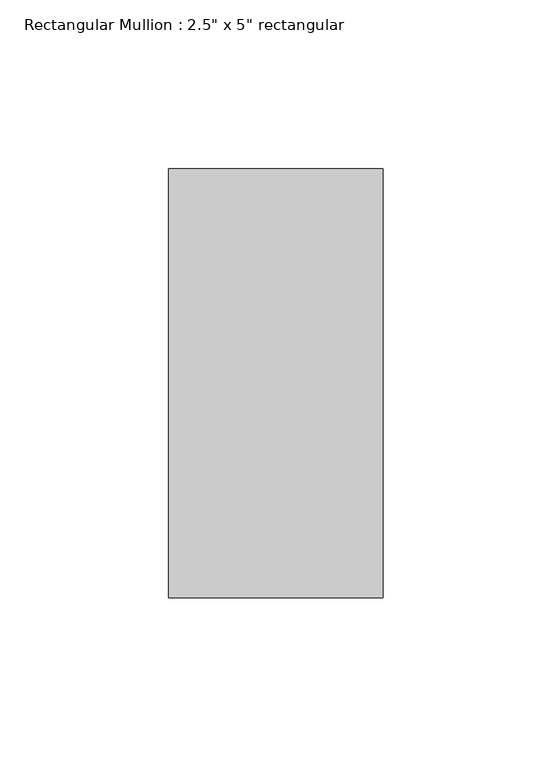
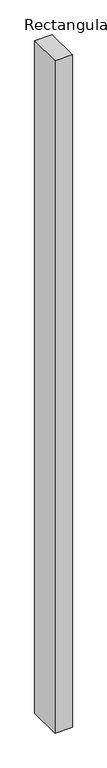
"""IFC4 building model written with IfcOpenShell, lengths in millimetres: member geometry."""

from ifc_helpers import new_model, si_unit, frame, origin, place, context, project, spatial, polyline, outline, extrude, source, transform, mapped, element, save


def member_06734e61(model_context):
    return source(origin(), model_context, "Body", "SweptSolid", [
        extrude(outline(polyline([(31.75, 63.5), (31.75, -63.5), (-31.75, -63.5), (-31.75, 63.5), (31.75, 63.5)])), frame((0.0, 0.0, -2582.2789558), z_axis=(0.0, 0.0, 1.0), x_axis=(1.0, 0.0, 0.0)), (0.0, 0.0, 1.0), 2582.2789558),
    ])


if __name__ == "__main__":
    model = new_model("IFC4")
    model_context = context("Model", 3, world=origin())
    ifc_project = project(units=[si_unit("LENGTHUNIT", "METRE", prefix="MILLI")], contexts=[model_context])
    site = spatial("IfcSite", under=ifc_project)
    building = spatial("IfcBuilding", under=site)
    placement = place(None, origin())
    member_shape = member_06734e61(model_context)
    element("IfcMember", 1, ObjectType="Rectangular Mullion : 2.5\" x 5\" rectangular", at=placement, inside=building, context=model_context, shape_type="MappedRepresentation", body=[
        mapped(member_shape, transform((0.0, 0.0, 0.0), x_axis=(1.0, 0.0, 0.0), y_axis=(0.0, 1.0, 0.0), z_axis=(0.0, 0.0, 1.0))),
    ])
    save(model, "model.ifc")
